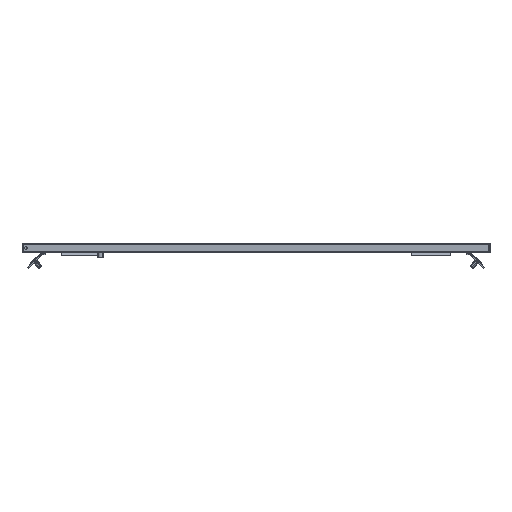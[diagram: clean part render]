
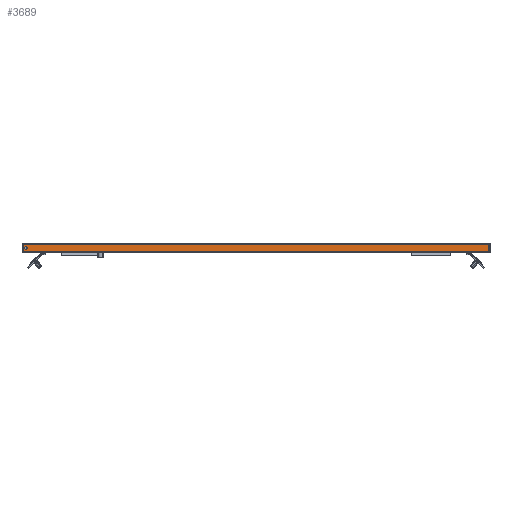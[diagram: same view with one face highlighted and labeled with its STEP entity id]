
A CAD part, front view. The second image highlights one B-rep face of the part: STEP entity #3689.
In plain terms, the highlighted planar face has unit normal (0, -1, 0).
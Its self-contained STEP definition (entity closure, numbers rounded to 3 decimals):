
#43 = VECTOR ( 'NONE', #10434, 1000. ) ;
#2321 = EDGE_CURVE ( 'NONE', #13012, #31727, #11978, .T. ) ;
#3317 = VERTEX_POINT ( 'NONE', #22884 ) ;
#3424 = FACE_BOUND ( 'NONE', #40670, .T. ) ;
#3689 = ADVANCED_FACE ( 'NONE', ( #3424, #25855 ), #36370, .F. ) ;
#6657 = DIRECTION ( 'NONE',  ( 0., 0., -1. ) ) ;
#6776 = ORIENTED_EDGE ( 'NONE', *, *, #21371, .F. ) ;
#7731 = VERTEX_POINT ( 'NONE', #19274 ) ;
#8343 = DIRECTION ( 'NONE',  ( 1., 0., 0. ) ) ;
#8724 = EDGE_CURVE ( 'NONE', #12401, #7731, #31186, .T. ) ;
#9578 = CARTESIAN_POINT ( 'NONE',  ( -292.5, -1000., -4.6 ) ) ;
#9659 = VERTEX_POINT ( 'NONE', #11445 ) ;
#10147 = AXIS2_PLACEMENT_3D ( 'NONE', #20024, #12713, #12502 ) ;
#10307 = CARTESIAN_POINT ( 'NONE',  ( -292.5, -1000., -6.3 ) ) ;
#10434 = DIRECTION ( 'NONE',  ( 0., 0., -1. ) ) ;
#11445 = CARTESIAN_POINT ( 'NONE',  ( -297.5, -1000., -10.6 ) ) ;
#11930 = CARTESIAN_POINT ( 'NONE',  ( 0., -1000., -10.6 ) ) ;
#11978 = LINE ( 'NONE', #14367, #24520 ) ;
#12401 = VERTEX_POINT ( 'NONE', #10307 ) ;
#12502 = DIRECTION ( 'NONE',  ( 0., 0., -1. ) ) ;
#12622 = AXIS2_PLACEMENT_3D ( 'NONE', #26483, #17010, #6657 ) ;
#12713 = DIRECTION ( 'NONE',  ( 0., 1., 0. ) ) ;
#13012 = VERTEX_POINT ( 'NONE', #31911 ) ;
#14367 = CARTESIAN_POINT ( 'NONE',  ( 0., -1000., 1.4 ) ) ;
#14750 = DIRECTION ( 'NONE',  ( 1., 0., 0. ) ) ;
#17010 = DIRECTION ( 'NONE',  ( 0., -1., 0. ) ) ;
#19274 = CARTESIAN_POINT ( 'NONE',  ( -292.5, -1000., -2.9 ) ) ;
#19455 = ORIENTED_EDGE ( 'NONE', *, *, #31134, .T. ) ;
#19595 = VECTOR ( 'NONE', #36448, 1000. ) ;
#20024 = CARTESIAN_POINT ( 'NONE',  ( 0., -1000., -8.2 ) ) ;
#20978 = LINE ( 'NONE', #23591, #43 ) ;
#21371 = EDGE_CURVE ( 'NONE', #7731, #12401, #39831, .T. ) ;
#22884 = CARTESIAN_POINT ( 'NONE',  ( 297.5, -1000., -10.6 ) ) ;
#23591 = CARTESIAN_POINT ( 'NONE',  ( 297.5, -1000., -8.2 ) ) ;
#23978 = CARTESIAN_POINT ( 'NONE',  ( -297.5, -1000., -8.2 ) ) ;
#24520 = VECTOR ( 'NONE', #8343, 1000. ) ;
#25227 = CARTESIAN_POINT ( 'NONE',  ( 297.5, -1000., 1.4 ) ) ;
#25268 = EDGE_CURVE ( 'NONE', #31727, #3317, #20978, .T. ) ;
#25855 = FACE_OUTER_BOUND ( 'NONE', #30907, .T. ) ;
#26175 = DIRECTION ( 'NONE',  ( 0., -1., 0. ) ) ;
#26483 = CARTESIAN_POINT ( 'NONE',  ( -292.5, -1000., -4.6 ) ) ;
#28690 = EDGE_CURVE ( 'NONE', #13012, #9659, #30436, .T. ) ;
#30436 = LINE ( 'NONE', #23978, #19595 ) ;
#30907 = EDGE_LOOP ( 'NONE', ( #19455, #36830, #41589, #40155 ) ) ;
#31134 = EDGE_CURVE ( 'NONE', #9659, #3317, #37560, .T. ) ;
#31186 = CIRCLE ( 'NONE', #12622, 1.7 ) ;
#31727 = VERTEX_POINT ( 'NONE', #25227 ) ;
#31911 = CARTESIAN_POINT ( 'NONE',  ( -297.5, -1000., 1.4 ) ) ;
#33913 = ORIENTED_EDGE ( 'NONE', *, *, #8724, .F. ) ;
#34060 = DIRECTION ( 'NONE',  ( 0., 0., -1. ) ) ;
#36370 = PLANE ( 'NONE',  #10147 ) ;
#36448 = DIRECTION ( 'NONE',  ( 0., 0., -1. ) ) ;
#36830 = ORIENTED_EDGE ( 'NONE', *, *, #25268, .F. ) ;
#37560 = LINE ( 'NONE', #11930, #38244 ) ;
#38244 = VECTOR ( 'NONE', #14750, 1000. ) ;
#39831 = CIRCLE ( 'NONE', #42603, 1.7 ) ;
#40155 = ORIENTED_EDGE ( 'NONE', *, *, #28690, .T. ) ;
#40670 = EDGE_LOOP ( 'NONE', ( #33913, #6776 ) ) ;
#41589 = ORIENTED_EDGE ( 'NONE', *, *, #2321, .F. ) ;
#42603 = AXIS2_PLACEMENT_3D ( 'NONE', #9578, #26175, #34060 ) ;
